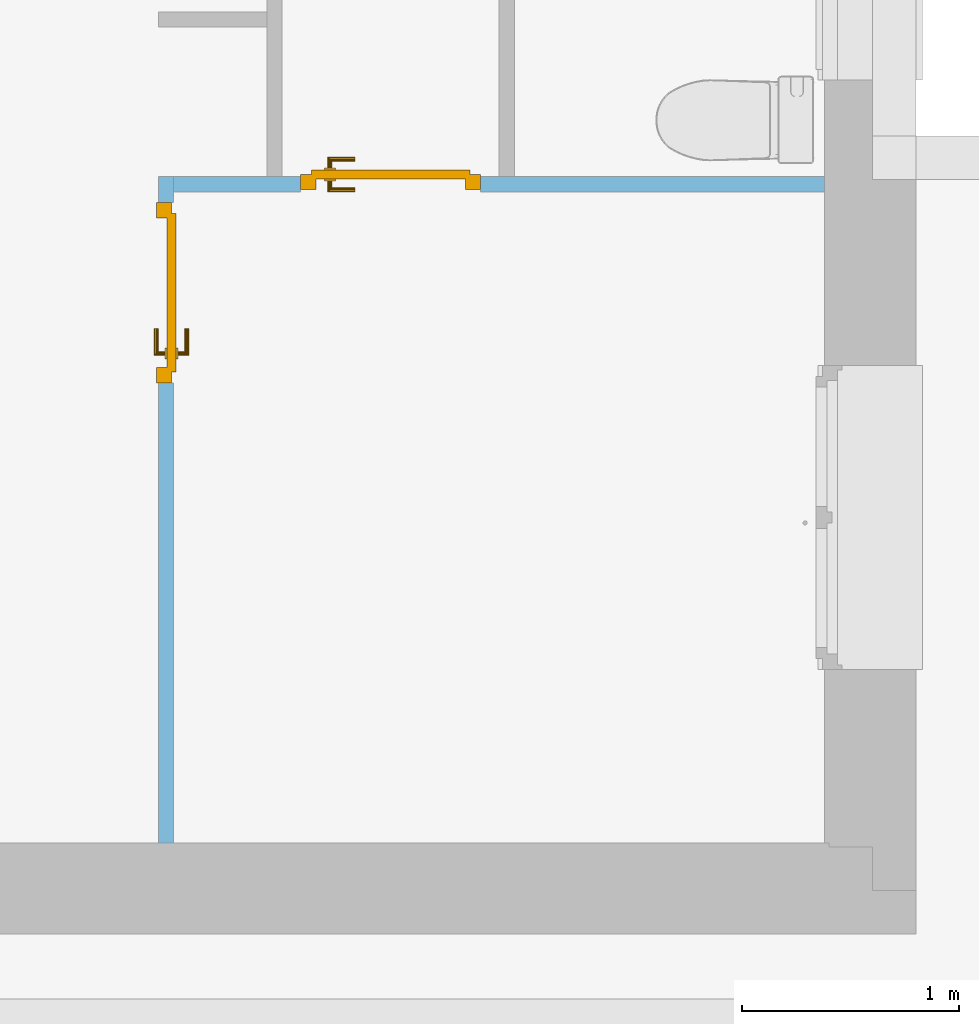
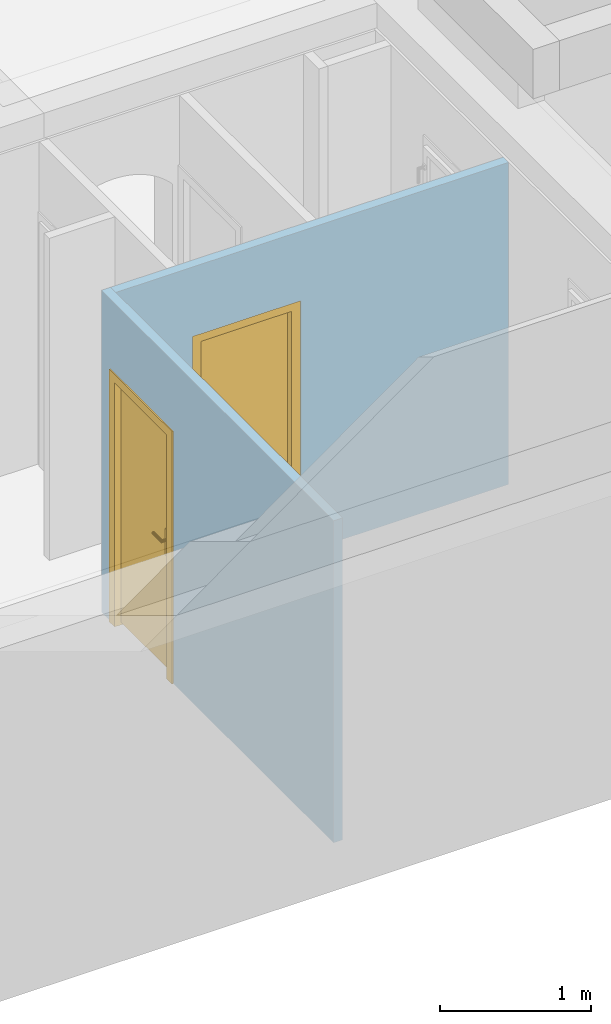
# One storey, part 6 of 16: 2 doors, 2 openings, plus 2 elements that do not belong to this part.
"""IFC4 building model written with IfcOpenShell, lengths in metres."""

from ifc_helpers import new_model, entity, si_unit, converted_unit, frame, frame_2d, origin, origin_with_axes, place, context, subcontext, project, spatial, polyline, rectangle, outline, extrude, faceted_brep, source, transform, mapped, material, layer, layer_set, layer_usage, type_object, element, fill, save


model = new_model("IFC4")

# Units and contexts
model_context = context("Model", 3, precision=1e-05, world=origin())
body_context = subcontext(model_context, "Body", "Model", "MODEL_VIEW")
ifc_project = project(units=[si_unit("LENGTHUNIT", "METRE"), si_unit("AREAUNIT", "SQUARE_METRE"), si_unit("VOLUMEUNIT", "CUBIC_METRE"), si_unit("MASSUNIT", "GRAM", prefix="KILO"), converted_unit("PLANEANGLEUNIT", "DEGREE", entity("IfcPlaneAngleMeasure", 0.0174532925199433), si_unit("PLANEANGLEUNIT", "RADIAN"), dimensions=[0, 0, 0, 0, 0, 0, 0])], contexts=[model_context])

# Building, storey
building_placement = place(None, origin())
building = spatial("IfcBuilding", under=ifc_project, at=building_placement, Name="Projet de Construction", CompositionType="ELEMENT")
storey_placement = place(building_placement, frame((0.0, 0.0, -0.05)))
storey = spatial("IfcBuildingStorey", under=building, at=storey_placement, Name="RDC", CompositionType="ELEMENT", Elevation=-0.05)

# Wall, opening, door
ifc_material_1 = material()
ifc_layer_1 = layer(ifc_material_1, 0.07)
ifc_layer_set_1 = layer_set([ifc_layer_1])
ifc_layer_usage_1 = layer_usage(ifc_layer_set_1, "AXIS2", "POSITIVE", 0.0)
wall_1_placement = place(storey_placement, frame((-7.4359375, -0.210208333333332, 0.05), z_axis=(0.0, 0.0, 1.0), x_axis=(0.0, -1.0, 0.0)))
wall_1 = element("IfcWall", 1, at=wall_1_placement, inside=storey, material=ifc_layer_usage_1, context=body_context, shape_type="SweptSolid", body=[
    extrude(rectangle(XDim=3.07, YDim=0.07, at=frame_2d((1.535, 0.035), x_axis=(1.0, 0.0))), origin_with_axes(), (0.0, 0.0, 1.0), 2.6),
])
opening_1_placement = place(wall_1_placement, frame((0.12, 0.0, 0.0), z_axis=(0.0, 1.0, 0.0), x_axis=(0.0, 0.0, 1.0)))
opening_1 = element("IfcOpeningStandardCase", 2, at=opening_1_placement, cuts=wall_1, Name="Baie de porte", PredefinedType="OPENING", context=body_context, shape_type="SweptSolid", body=[
    extrude(outline(polyline([(0.0, 0.83), (2.04, 0.83), (2.04, 0.0), (0.0, 0.0), (0.0, 0.83)])), origin_with_axes(), (0.0, 0.0, 1.0), 0.07),
])
ifc_material_2 = material()
door_type_1 = type_object("IfcDoorType", Name="1 vantail sol fini, en bois", OperationType="SINGLE_SWING_RIGHT", ParameterTakesPrecedence=False, PredefinedType="DOOR")
shared_shape_1 = source(origin_with_axes(), body_context, "Body", "Brep", [
    faceted_brep([(0.83, 0.07, 2.04), (0.76, 0.07, 2.04), (0.76, 0.07, -4.28626379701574e-18), (0.83, 0.07, -4.28626379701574e-18), (0.83, 0.0, 4.28626379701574e-18), (0.76, 0.0, 4.28626379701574e-18), (0.76, 0.0, 2.04), (0.83, 0.0, 2.04)], [[[0, 1, 2, 3]], [[4, 5, 6, 7]], [[3, 4, 7, 0]], [[2, 5, 4, 3]], [[1, 6, 5, 2]], [[0, 7, 6, 1]]], orient=[[False], [False], [False], [False], [False], [False]]),
    faceted_brep([(0.07, 0.07, 2.04), (0.0, 0.07, 2.04), (0.0, 0.07, -4.28626379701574e-18), (0.07, 0.07, -4.28626379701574e-18), (0.07, 0.0, 4.28626379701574e-18), (0.0, 0.0, 4.28626379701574e-18), (0.0, 0.0, 2.04), (0.07, 0.0, 2.04)], [[[0, 1, 2, 3]], [[4, 5, 6, 7]], [[3, 4, 7, 0]], [[2, 5, 4, 3]], [[1, 6, 5, 2]], [[0, 7, 6, 1]]], orient=[[False], [False], [False], [False], [False], [False]]),
    faceted_brep([(0.76, 0.07, 2.04), (0.07, 0.07, 2.04), (0.07, 0.07, 1.97), (0.76, 0.07, 1.97), (0.76, 0.0, 1.97), (0.07, 0.0, 1.97), (0.07, 0.0, 2.04), (0.76, 0.0, 2.04)], [[[0, 1, 2, 3]], [[4, 5, 6, 7]], [[3, 4, 7, 0]], [[2, 5, 4, 3]], [[1, 6, 5, 2]], [[0, 7, 6, 1]]], orient=[[False], [False], [False], [False], [False], [False]]),
    faceted_brep([(0.78, 0.09, 1.99), (0.05, 0.09, 1.99), (0.05, 0.09, 0.021), (0.78, 0.09, 0.021), (0.78, 0.05, 0.021), (0.05, 0.05, 0.021), (0.05, 0.05, 1.99), (0.78, 0.05, 1.99)], [[[0, 1, 2, 3]], [[4, 5, 6, 7]], [[3, 4, 7, 0]], [[2, 5, 4, 3]], [[1, 6, 5, 2]], [[0, 7, 6, 1]]], orient=[[False], [False], [False], [False], [False], [False]]),
    faceted_brep([(0.72, 0.05, 1.146), (0.67, 0.05, 1.146), (0.67, 0.05, 0.931), (0.72, 0.05, 0.931), (0.72, 0.04, 0.931), (0.67, 0.04, 0.931), (0.67, 0.04, 1.146), (0.72, 0.04, 1.146)], [[[0, 1, 2, 3]], [[4, 5, 6, 7]], [[3, 4, 7, 0]], [[2, 5, 4, 3]], [[1, 6, 5, 2]], [[0, 7, 6, 1]]], orient=[[False], [False], [False], [False], [False], [False]]),
    faceted_brep([(0.695, 0.04, 1.081), (0.69, 0.04, 1.07966025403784), (0.686339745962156, 0.04, 1.076), (0.685, 0.04, 1.071), (0.686339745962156, 0.04, 1.066), (0.69, 0.04, 1.06233974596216), (0.695, 0.04, 1.061), (0.7, 0.04, 1.06233974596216), (0.703660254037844, 0.04, 1.066), (0.705, 0.04, 1.071), (0.703660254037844, 0.04, 1.076), (0.7, 0.04, 1.07966025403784), (0.7, -0.005, 1.07966025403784), (0.695, 0.0, 1.081), (0.703660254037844, -0.00866025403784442, 1.076), (0.705, -0.01, 1.071), (0.703660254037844, -0.00866025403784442, 1.066), (0.7, -0.005, 1.06233974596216), (0.695, 0.0, 1.061), (0.69, 0.005, 1.06233974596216), (0.686339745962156, 0.00866025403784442, 1.066), (0.685, 0.01, 1.071), (0.686339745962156, 0.00866025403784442, 1.076), (0.69, 0.005, 1.07966025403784), (0.58, 0.0, 1.081), (0.58, -0.005, 1.07966025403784), (0.58, -0.00866025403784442, 1.076), (0.58, -0.01, 1.071), (0.58, -0.00866025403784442, 1.066), (0.58, -0.005, 1.06233974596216), (0.58, 0.0, 1.061), (0.58, 0.005, 1.06233974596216), (0.58, 0.00866025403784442, 1.066), (0.58, 0.01, 1.071), (0.58, 0.00866025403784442, 1.076), (0.58, 0.005, 1.07966025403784)], [[[0, 1, 2, 3, 4, 5, 6, 7, 8, 9, 10, 11]], [[0, 11, 12, 13]], [[11, 10, 14, 12]], [[10, 9, 15, 14]], [[9, 8, 16, 15]], [[8, 7, 17, 16]], [[7, 6, 18, 17]], [[6, 5, 19, 18]], [[5, 4, 20, 19]], [[4, 3, 21, 20]], [[3, 2, 22, 21]], [[2, 1, 23, 22]], [[1, 0, 13, 23]], [[24, 25, 26, 27, 28, 29, 30, 31, 32, 33, 34, 35]], [[13, 12, 25, 24]], [[12, 14, 26, 25]], [[14, 15, 27, 26]], [[15, 16, 28, 27]], [[16, 17, 29, 28]], [[17, 18, 30, 29]], [[18, 19, 31, 30]], [[19, 20, 32, 31]], [[20, 21, 33, 32]], [[21, 22, 34, 33]], [[22, 23, 35, 34]], [[23, 13, 24, 35]]], orient=[[False], [False], [False], [False], [False], [False], [False], [False], [False], [False], [False], [False], [False], [False], [False], [False], [False], [False], [False], [False], [False], [False], [False], [False], [False], [False]]),
    faceted_brep([(0.72, 0.09, 1.146), (0.72, 0.09, 0.931), (0.67, 0.09, 0.931), (0.67, 0.09, 1.146), (0.72, 0.1, 0.931), (0.72, 0.1, 1.146), (0.67, 0.1, 1.146), (0.67, 0.1, 0.931)], [[[0, 1, 2, 3]], [[4, 5, 6, 7]], [[1, 0, 5, 4]], [[2, 1, 4, 7]], [[3, 2, 7, 6]], [[0, 3, 6, 5]]], orient=[[False], [False], [False], [False], [False], [False]]),
    faceted_brep([(0.695, 0.1, 1.081), (0.7, 0.1, 1.07966025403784), (0.703660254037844, 0.1, 1.076), (0.705, 0.1, 1.071), (0.703660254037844, 0.1, 1.066), (0.7, 0.1, 1.06233974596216), (0.695, 0.1, 1.061), (0.69, 0.1, 1.06233974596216), (0.686339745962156, 0.1, 1.066), (0.685, 0.1, 1.071), (0.686339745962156, 0.1, 1.076), (0.69, 0.1, 1.07966025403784), (0.695, 0.14, 1.081), (0.7, 0.145, 1.07966025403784), (0.703660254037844, 0.148660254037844, 1.076), (0.705, 0.15, 1.071), (0.703660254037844, 0.148660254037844, 1.066), (0.7, 0.145, 1.06233974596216), (0.695, 0.14, 1.061), (0.69, 0.135, 1.06233974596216), (0.686339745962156, 0.131339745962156, 1.066), (0.685, 0.13, 1.071), (0.686339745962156, 0.131339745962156, 1.076), (0.69, 0.135, 1.07966025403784), (0.58, 0.14, 1.081), (0.58, 0.135, 1.07966025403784), (0.58, 0.131339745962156, 1.076), (0.58, 0.13, 1.071), (0.58, 0.131339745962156, 1.066), (0.58, 0.135, 1.06233974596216), (0.58, 0.14, 1.061), (0.58, 0.145, 1.06233974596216), (0.58, 0.148660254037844, 1.066), (0.58, 0.15, 1.071), (0.58, 0.148660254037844, 1.076), (0.58, 0.145, 1.07966025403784)], [[[0, 1, 2, 3, 4, 5, 6, 7, 8, 9, 10, 11]], [[0, 12, 13, 1]], [[1, 13, 14, 2]], [[2, 14, 15, 3]], [[3, 15, 16, 4]], [[4, 16, 17, 5]], [[5, 17, 18, 6]], [[6, 18, 19, 7]], [[7, 19, 20, 8]], [[8, 20, 21, 9]], [[9, 21, 22, 10]], [[10, 22, 23, 11]], [[11, 23, 12, 0]], [[24, 25, 26, 27, 28, 29, 30, 31, 32, 33, 34, 35]], [[12, 24, 35, 13]], [[13, 35, 34, 14]], [[14, 34, 33, 15]], [[15, 33, 32, 16]], [[16, 32, 31, 17]], [[17, 31, 30, 18]], [[18, 30, 29, 19]], [[19, 29, 28, 20]], [[20, 28, 27, 21]], [[21, 27, 26, 22]], [[22, 26, 25, 23]], [[23, 25, 24, 12]]], orient=[[False], [False], [False], [False], [False], [False], [False], [False], [False], [False], [False], [False], [False], [False], [False], [False], [False], [False], [False], [False], [False], [False], [False], [False], [False], [False]]),
])
door_1_placement = place(opening_1_placement, frame((0.0, 0.0, -0.01), z_axis=(1.0, 0.0, 0.0), x_axis=(0.0, 1.0, 0.0)))
door_1 = element("IfcDoor", 3, at=door_1_placement, inside=storey, type_object=door_type_1, material=ifc_material_2, Name="1 vantail sol fini, en bois", OverallHeight=2.04, OverallWidth=0.83, context=body_context, shape_type="MappedRepresentation", body=[
    mapped(shared_shape_1, transform((0.0, 0.0, 0.0), x_axis=(1.0, 0.0, 0.0), y_axis=(0.0, 1.0, 0.0), z_axis=(0.0, 0.0, 1.0), scale=1.0)),
])
fill(opening_1, door_1)

ifc_material_3 = material()
ifc_layer_2 = layer(ifc_material_3, 0.07)
ifc_layer_set_2 = layer_set([ifc_layer_2])
ifc_layer_usage_2 = layer_usage(ifc_layer_set_2, "AXIS2", "POSITIVE", 0.0)
wall_2_placement = place(storey_placement, frame((-4.3659375, -0.210208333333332, 0.05), z_axis=(0.0, 0.0, 1.0), x_axis=(-1.0, 0.0, 0.0)))
wall_2 = element("IfcWall", 4, at=wall_2_placement, inside=storey, material=ifc_layer_usage_2, context=body_context, shape_type="SweptSolid", body=[
    extrude(rectangle(XDim=3.0, YDim=0.07, at=frame_2d((1.5, 0.035), x_axis=(1.0, 0.0))), origin_with_axes(), (0.0, 0.0, 1.0), 2.6),
])
opening_2_placement = place(wall_2_placement, frame((1.585, 0.0, 0.0), z_axis=(0.0, 1.0, 0.0), x_axis=(0.0, 0.0, 1.0)))
opening_2 = element("IfcOpeningStandardCase", 5, at=opening_2_placement, cuts=wall_2, Name="Baie de porte", PredefinedType="OPENING", context=body_context, shape_type="SweptSolid", body=[
    extrude(outline(polyline([(0.0, 0.83), (2.04, 0.83), (2.04, 0.0), (0.0, 0.0), (0.0, 0.83)])), origin_with_axes(), (0.0, 0.0, 1.0), 0.07),
])
ifc_material_4 = material()
door_type_2 = type_object("IfcDoorType", Name="1 vantail sol fini, en bois", OperationType="SINGLE_SWING_RIGHT", ParameterTakesPrecedence=False, PredefinedType="DOOR")
shared_shape_2 = source(origin_with_axes(), body_context, "Body", "Brep", [
    faceted_brep([(0.0, 0.0700000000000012, 2.04), (0.0, 0.0700000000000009, -4.28626379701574e-18), (0.07, 0.0700000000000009, -4.28626379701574e-18), (0.07, 0.0700000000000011, 2.04), (0.0, 9.09494701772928e-16, 4.28626379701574e-18), (0.0, 1.13686837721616e-15, 2.04), (0.07, 1.13686837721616e-15, 2.04), (0.07, 9.09494701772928e-16, 4.28626379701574e-18)], [[[0, 1, 2, 3]], [[4, 5, 6, 7]], [[1, 0, 5, 4]], [[2, 1, 4, 7]], [[3, 2, 7, 6]], [[0, 3, 6, 5]]], orient=[[False], [False], [False], [False], [False], [False]]),
    faceted_brep([(0.76, 0.070000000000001, 2.04), (0.76, 0.0700000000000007, -4.28626379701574e-18), (0.83, 0.0700000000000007, -4.28626379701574e-18), (0.83, 0.070000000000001, 2.04), (0.76, 7.38964445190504e-16, 4.28626379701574e-18), (0.76, 9.66338120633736e-16, 2.04), (0.83, 9.66338120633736e-16, 2.04), (0.83, 6.82121026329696e-16, 4.28626379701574e-18)], [[[0, 1, 2, 3]], [[4, 5, 6, 7]], [[1, 0, 5, 4]], [[2, 1, 4, 7]], [[3, 2, 7, 6]], [[0, 3, 6, 5]]], orient=[[False], [False], [False], [False], [False], [False]]),
    faceted_brep([(0.07, 0.0700000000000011, 2.04), (0.07, 0.0700000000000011, 1.97), (0.76, 0.070000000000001, 1.97), (0.76, 0.070000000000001, 2.04), (0.07, 1.13686837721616e-15, 1.97), (0.07, 1.13686837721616e-15, 2.04), (0.76, 9.66338120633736e-16, 2.04), (0.76, 9.66338120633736e-16, 1.97)], [[[0, 1, 2, 3]], [[4, 5, 6, 7]], [[1, 0, 5, 4]], [[2, 1, 4, 7]], [[3, 2, 7, 6]], [[0, 3, 6, 5]]], orient=[[False], [False], [False], [False], [False], [False]]),
    faceted_brep([(0.05, 0.0900000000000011, 1.99), (0.05, 0.0900000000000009, 0.021), (0.78, 0.0900000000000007, 0.021), (0.78, 0.090000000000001, 1.99), (0.05, 0.0500000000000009, 0.021), (0.05, 0.0500000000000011, 1.99), (0.78, 0.050000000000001, 1.99), (0.78, 0.0500000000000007, 0.021)], [[[0, 1, 2, 3]], [[4, 5, 6, 7]], [[1, 0, 5, 4]], [[2, 1, 4, 7]], [[3, 2, 7, 6]], [[0, 3, 6, 5]]], orient=[[False], [False], [False], [False], [False], [False]]),
    faceted_brep([(0.11, 0.050000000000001, 1.146), (0.11, 0.050000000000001, 0.931), (0.16, 0.050000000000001, 0.931), (0.16, 0.050000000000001, 1.146), (0.11, 0.040000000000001, 0.931), (0.11, 0.040000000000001, 1.146), (0.16, 0.040000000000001, 1.146), (0.16, 0.040000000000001, 0.931)], [[[0, 1, 2, 3]], [[4, 5, 6, 7]], [[1, 0, 5, 4]], [[2, 1, 4, 7]], [[3, 2, 7, 6]], [[0, 3, 6, 5]]], orient=[[False], [False], [False], [False], [False], [False]]),
    faceted_brep([(0.135, 0.040000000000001, 1.081), (0.13, 0.040000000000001, 1.07966025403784), (0.126339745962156, 0.040000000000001, 1.076), (0.125, 0.040000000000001, 1.071), (0.126339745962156, 0.040000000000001, 1.066), (0.13, 0.040000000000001, 1.06233974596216), (0.135, 0.040000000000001, 1.061), (0.14, 0.040000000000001, 1.06233974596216), (0.143660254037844, 0.040000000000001, 1.066), (0.145, 0.040000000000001, 1.071), (0.143660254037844, 0.040000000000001, 1.076), (0.14, 0.040000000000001, 1.07966025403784), (0.135, 1.02318153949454e-15, 1.081), (0.13, -0.00499999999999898, 1.07966025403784), (0.126339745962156, -0.0086602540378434, 1.076), (0.125, -0.00999999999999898, 1.071), (0.126339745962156, -0.0086602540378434, 1.066), (0.13, -0.00499999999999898, 1.06233974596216), (0.135, 1.02318153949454e-15, 1.061), (0.14, 0.00500000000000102, 1.06233974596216), (0.143660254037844, 0.00866025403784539, 1.066), (0.145, 0.010000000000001, 1.071), (0.143660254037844, 0.00866025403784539, 1.076), (0.14, 0.00500000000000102, 1.07966025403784), (0.25, 9.66338120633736e-16, 1.081), (0.25, 0.00500000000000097, 1.07966025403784), (0.25, 0.00866025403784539, 1.076), (0.25, 0.010000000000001, 1.071), (0.25, 0.00866025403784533, 1.066), (0.25, 0.00500000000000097, 1.06233974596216), (0.25, 9.66338120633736e-16, 1.061), (0.25, -0.00499999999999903, 1.06233974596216), (0.25, -0.0086602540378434, 1.066), (0.25, -0.00999999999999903, 1.071), (0.25, -0.0086602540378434, 1.076), (0.25, -0.00499999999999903, 1.07966025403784)], [[[0, 1, 2, 3, 4, 5, 6, 7, 8, 9, 10, 11]], [[0, 12, 13, 1]], [[1, 13, 14, 2]], [[2, 14, 15, 3]], [[3, 15, 16, 4]], [[4, 16, 17, 5]], [[5, 17, 18, 6]], [[6, 18, 19, 7]], [[7, 19, 20, 8]], [[8, 20, 21, 9]], [[9, 21, 22, 10]], [[10, 22, 23, 11]], [[11, 23, 12, 0]], [[24, 25, 26, 27, 28, 29, 30, 31, 32, 33, 34, 35]], [[12, 24, 35, 13]], [[13, 35, 34, 14]], [[14, 34, 33, 15]], [[15, 33, 32, 16]], [[16, 32, 31, 17]], [[17, 31, 30, 18]], [[18, 30, 29, 19]], [[19, 29, 28, 20]], [[20, 28, 27, 21]], [[21, 27, 26, 22]], [[22, 26, 25, 23]], [[23, 25, 24, 12]]], orient=[[False], [False], [False], [False], [False], [False], [False], [False], [False], [False], [False], [False], [False], [False], [False], [False], [False], [False], [False], [False], [False], [False], [False], [False], [False], [False]]),
    faceted_brep([(0.11, 0.090000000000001, 1.146), (0.16, 0.090000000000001, 1.146), (0.16, 0.090000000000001, 0.931), (0.11, 0.090000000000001, 0.931), (0.11, 0.100000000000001, 0.931), (0.16, 0.100000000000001, 0.931), (0.16, 0.100000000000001, 1.146), (0.11, 0.100000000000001, 1.146)], [[[0, 1, 2, 3]], [[4, 5, 6, 7]], [[3, 4, 7, 0]], [[2, 5, 4, 3]], [[1, 6, 5, 2]], [[0, 7, 6, 1]]], orient=[[False], [False], [False], [False], [False], [False]]),
    faceted_brep([(0.135, 0.100000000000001, 1.081), (0.14, 0.100000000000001, 1.07966025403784), (0.143660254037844, 0.100000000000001, 1.076), (0.145, 0.100000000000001, 1.071), (0.143660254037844, 0.100000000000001, 1.066), (0.14, 0.100000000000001, 1.06233974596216), (0.135, 0.100000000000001, 1.061), (0.13, 0.100000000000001, 1.06233974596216), (0.126339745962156, 0.100000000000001, 1.066), (0.125, 0.100000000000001, 1.071), (0.126339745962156, 0.100000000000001, 1.076), (0.13, 0.100000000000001, 1.07966025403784), (0.13, 0.145000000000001, 1.07966025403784), (0.135, 0.140000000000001, 1.081), (0.126339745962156, 0.148660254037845, 1.076), (0.125, 0.150000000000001, 1.071), (0.126339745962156, 0.148660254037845, 1.066), (0.13, 0.145000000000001, 1.06233974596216), (0.135, 0.140000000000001, 1.061), (0.14, 0.135000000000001, 1.06233974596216), (0.143660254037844, 0.131339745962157, 1.066), (0.145, 0.130000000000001, 1.071), (0.143660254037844, 0.131339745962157, 1.076), (0.14, 0.135000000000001, 1.07966025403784), (0.25, 0.140000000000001, 1.081), (0.25, 0.145000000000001, 1.07966025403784), (0.25, 0.148660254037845, 1.076), (0.25, 0.150000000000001, 1.071), (0.25, 0.148660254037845, 1.066), (0.25, 0.145000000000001, 1.06233974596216), (0.25, 0.140000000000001, 1.061), (0.25, 0.135000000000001, 1.06233974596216), (0.25, 0.131339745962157, 1.066), (0.25, 0.130000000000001, 1.071), (0.25, 0.131339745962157, 1.076), (0.25, 0.135000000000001, 1.07966025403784)], [[[0, 1, 2, 3, 4, 5, 6, 7, 8, 9, 10, 11]], [[0, 11, 12, 13]], [[11, 10, 14, 12]], [[10, 9, 15, 14]], [[9, 8, 16, 15]], [[8, 7, 17, 16]], [[7, 6, 18, 17]], [[6, 5, 19, 18]], [[5, 4, 20, 19]], [[4, 3, 21, 20]], [[3, 2, 22, 21]], [[2, 1, 23, 22]], [[1, 0, 13, 23]], [[24, 25, 26, 27, 28, 29, 30, 31, 32, 33, 34, 35]], [[13, 12, 25, 24]], [[12, 14, 26, 25]], [[14, 15, 27, 26]], [[15, 16, 28, 27]], [[16, 17, 29, 28]], [[17, 18, 30, 29]], [[18, 19, 31, 30]], [[19, 20, 32, 31]], [[20, 21, 33, 32]], [[21, 22, 34, 33]], [[22, 23, 35, 34]], [[23, 13, 24, 35]]], orient=[[False], [False], [False], [False], [False], [False], [False], [False], [False], [False], [False], [False], [False], [False], [False], [False], [False], [False], [False], [False], [False], [False], [False], [False], [False], [False]]),
])
door_2_placement = place(opening_2_placement, frame((0.0, 0.83, 0.06), z_axis=(1.0, 0.0, 0.0), x_axis=(0.0, -1.0, 0.0)))
door_2 = element("IfcDoor", 6, at=door_2_placement, inside=storey, type_object=door_type_2, material=ifc_material_4, Name="1 vantail sol fini, en bois", OverallHeight=2.04, OverallWidth=0.83, context=body_context, shape_type="MappedRepresentation", body=[
    mapped(shared_shape_2, transform((0.0, 0.0, 0.0), x_axis=(1.0, 0.0, 0.0), y_axis=(0.0, 1.0, 0.0), z_axis=(0.0, 0.0, 1.0), scale=1.0)),
])
fill(opening_2, door_2)

save(model, "model.ifc")
